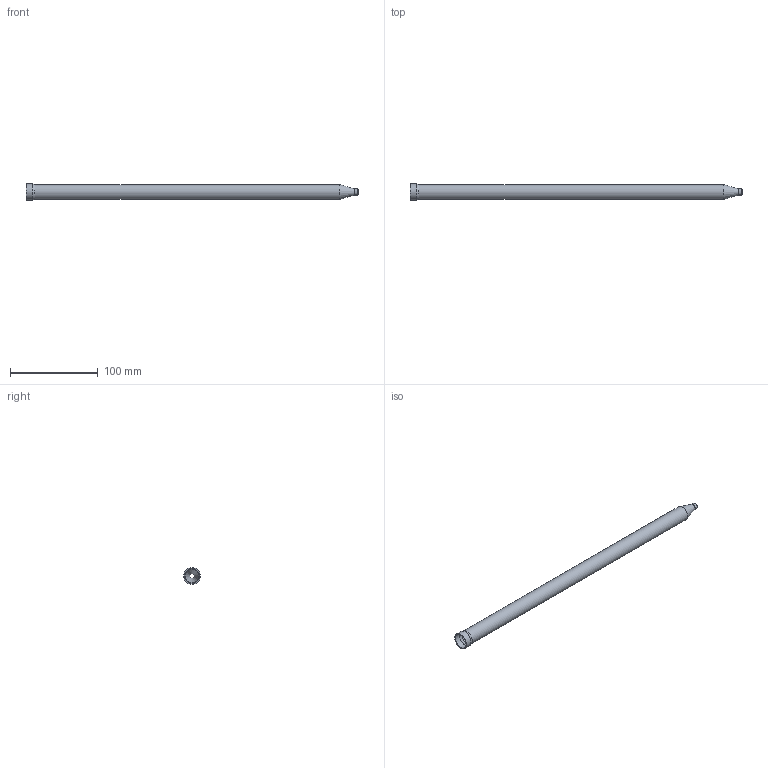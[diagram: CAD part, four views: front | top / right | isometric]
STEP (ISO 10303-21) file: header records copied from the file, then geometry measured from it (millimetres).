
FILE_DESCRIPTION (( 'STEP AP214' ), '1' );
FILE_NAME ('Mixer 13-32.STEP', '2024-10-11T14:43:29', ( '' ), ( '' ), 'SwSTEP 2.0', 'SolidWorks 2024', '' );
FILE_SCHEMA (( 'AUTOMOTIVE_DESIGN' ));
Length unit declared in the file: millimetre
Products named in the file (1): Mixer 13-32
Bounding box: 378 x 19.2 x 19.2 mm (x, y, z)
Volume: 18692.7 mm3; surface area: 37459.6 mm2
Topology: 1 solids, 1 shells, 13 faces, 24 edges, 13 vertices
Faces by surface type: cylinder 6, cone 5, plane 2
Full cylindrical faces by diameter (mm): 4.9 x1, 6.9 x1, 15 x1, 17 x1, 17.2 x1, 19.2 x1
Entity records: 291 total; most frequent: DIRECTION 54, CARTESIAN_POINT 40, AXIS2_PLACEMENT_3D 27, EDGE_LOOP 26, ORIENTED_EDGE 26, FACE_OUTER_BOUND 19, ADVANCED_FACE 13, EDGE_CURVE 13
